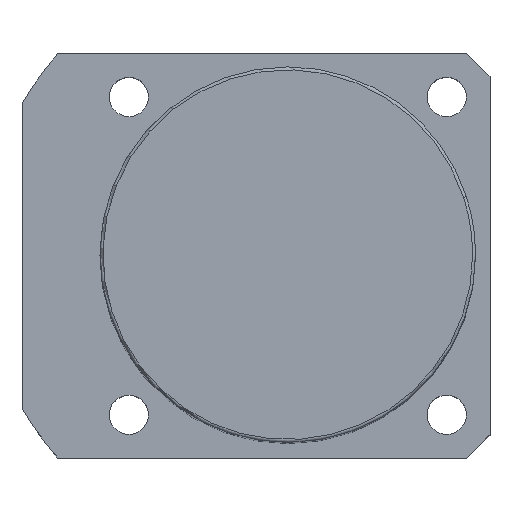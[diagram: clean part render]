
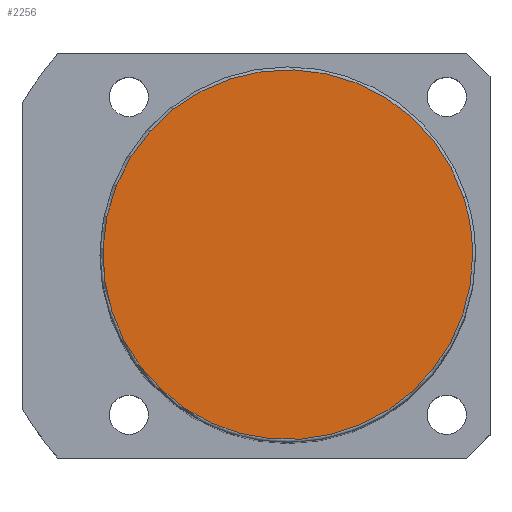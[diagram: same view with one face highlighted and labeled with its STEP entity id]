
A CAD part, top view. The second image highlights one B-rep face of the part: STEP entity #2256.
In plain terms, the highlighted planar face has unit normal (0, 0, 1).
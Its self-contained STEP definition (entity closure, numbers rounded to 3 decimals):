
#2222=CARTESIAN_POINT('',(32.0,0.0,131.0));
#2223=VERTEX_POINT('',#2222);
#2224=CARTESIAN_POINT('',(30.434,9.889,131.0));
#2225=VERTEX_POINT('',#2224);
#2226=CARTESIAN_POINT('',(0.0,0.0,131.0));
#2227=DIRECTION('',(0.0,0.0,1.0));
#2228=DIRECTION('',(1.0,0.0,0.0));
#2229=AXIS2_PLACEMENT_3D('',#2226,#2227,#2228);
#2230=CIRCLE('',#2229,32.0);
#2231=EDGE_CURVE('no 2106',#2223,#2225,#2230,.T.);
#2232=ORIENTED_EDGE('',*,*,#2231,.T.);
#2233=CARTESIAN_POINT('',(-30.434,-9.889,131.0));
#2234=VERTEX_POINT('',#2233);
#2235=CARTESIAN_POINT('',(0.0,0.0,131.0));
#2236=DIRECTION('',(0.0,0.0,1.0));
#2237=DIRECTION('',(1.0,0.0,0.0));
#2238=AXIS2_PLACEMENT_3D('',#2235,#2236,#2237);
#2239=CIRCLE('',#2238,32.0);
#2240=EDGE_CURVE('no 2112',#2225,#2234,#2239,.T.);
#2241=ORIENTED_EDGE('',*,*,#2240,.T.);
#2242=CARTESIAN_POINT('',(0.0,0.0,131.0));
#2243=DIRECTION('',(0.0,0.0,1.0));
#2244=DIRECTION('',(1.0,0.0,0.0));
#2245=AXIS2_PLACEMENT_3D('',#2242,#2243,#2244);
#2246=CIRCLE('',#2245,32.0);
#2247=EDGE_CURVE('no 2116',#2234,#2223,#2246,.T.);
#2248=ORIENTED_EDGE('',*,*,#2247,.T.);
#2249=EDGE_LOOP('',(#2232,#2241,#2248));
#2250=FACE_OUTER_BOUND('',#2249,.T.);
#2251=CARTESIAN_POINT('',(0.0,0.0,131.0));
#2252=DIRECTION('',(0.0,0.0,1.0));
#2253=DIRECTION('',(1.0,0.0,0.0));
#2254=AXIS2_PLACEMENT_3D('',#2251,#2252,#2253);
#2255=PLANE('',#2254);
#2256=ADVANCED_FACE('no 2097',(#2250),#2255,.T.);
